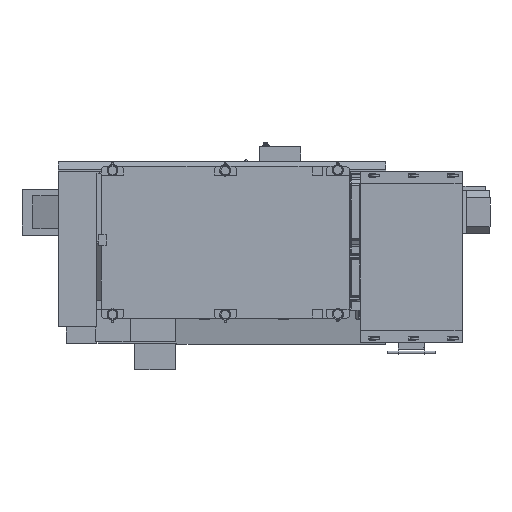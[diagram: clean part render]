
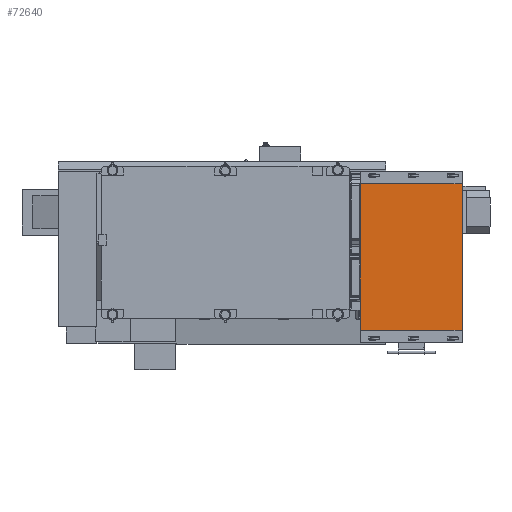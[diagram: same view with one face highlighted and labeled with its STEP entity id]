
A CAD part, front view. The second image highlights one B-rep face of the part: STEP entity #72640.
In plain terms, the highlighted planar face has unit normal (0, -1, 0).
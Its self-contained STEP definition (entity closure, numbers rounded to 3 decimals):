
#1158 = CARTESIAN_POINT ( 'NONE',  ( 375.147, -1068.207, -1372.405 ) ) ;
#6952 = CARTESIAN_POINT ( 'NONE',  ( 3551.936, -1068.207, 331.935 ) ) ;
#9903 = ORIENTED_EDGE ( 'NONE', *, *, #39994, .F. ) ;
#11594 = VECTOR ( 'NONE', #132654, 1000. ) ;
#22662 = VERTEX_POINT ( 'NONE', #92345 ) ;
#25242 = DIRECTION ( 'NONE',  ( 0., -1., 0. ) ) ;
#38062 = LINE ( 'NONE', #124836, #92608 ) ;
#39994 = EDGE_CURVE ( 'NONE', #173999, #208456, #38062, .T. ) ;
#41317 = DIRECTION ( 'NONE',  ( 0., 0., -1. ) ) ;
#44761 = VECTOR ( 'NONE', #168684, 1000. ) ;
#45962 = CARTESIAN_POINT ( 'NONE',  ( 375.147, -1068.207, -1372.405 ) ) ;
#50282 = CARTESIAN_POINT ( 'NONE',  ( 375.147, -1068.207, 331.935 ) ) ;
#55795 = CARTESIAN_POINT ( 'NONE',  ( 2370.582, -1068.207, 331.935 ) ) ;
#57795 = CARTESIAN_POINT ( 'NONE',  ( 2368.042, -1068.207, 331.935 ) ) ;
#58682 = ORIENTED_EDGE ( 'NONE', *, *, #192379, .F. ) ;
#63018 = CARTESIAN_POINT ( 'NONE',  ( 2368.042, -1068.207, -1372.405 ) ) ;
#68829 = ORIENTED_EDGE ( 'NONE', *, *, #243761, .T. ) ;
#70517 = EDGE_CURVE ( 'NONE', #125221, #22662, #174858, .T. ) ;
#71676 = LINE ( 'NONE', #50282, #279718 ) ;
#72640 = ADVANCED_FACE ( 'NONE', ( #220021 ), #90695, .T. ) ;
#73797 = CARTESIAN_POINT ( 'NONE',  ( 2368.042, -1068.207, -1372.405 ) ) ;
#79187 = CARTESIAN_POINT ( 'NONE',  ( 375.147, -1068.207, 331.935 ) ) ;
#79491 = EDGE_LOOP ( 'NONE', ( #240721, #181826, #270958, #68829, #269059, #9903, #152761, #58682 ) ) ;
#85914 = LINE ( 'NONE', #45962, #114392 ) ;
#86833 = LINE ( 'NONE', #170693, #263298 ) ;
#88444 = VERTEX_POINT ( 'NONE', #155091 ) ;
#89294 = DIRECTION ( 'NONE',  ( 0., 0., -1. ) ) ;
#89607 = CARTESIAN_POINT ( 'NONE',  ( 375.147, -1068.207, -1372.405 ) ) ;
#90695 = PLANE ( 'NONE',  #147460 ) ;
#92345 = CARTESIAN_POINT ( 'NONE',  ( 2370.582, -1068.207, -1372.405 ) ) ;
#92373 = DIRECTION ( 'NONE',  ( 1., 0., 0. ) ) ;
#92608 = VECTOR ( 'NONE', #104923, 1000. ) ;
#104923 = DIRECTION ( 'NONE',  ( 1., 0., 0. ) ) ;
#107265 = VERTEX_POINT ( 'NONE', #143757 ) ;
#114392 = VECTOR ( 'NONE', #173948, 1000. ) ;
#124836 = CARTESIAN_POINT ( 'NONE',  ( 375.147, -1068.207, 331.935 ) ) ;
#125221 = VERTEX_POINT ( 'NONE', #73797 ) ;
#132654 = DIRECTION ( 'NONE',  ( 0., 0., 1. ) ) ;
#137076 = DIRECTION ( 'NONE',  ( 1., 0., 0. ) ) ;
#143757 = CARTESIAN_POINT ( 'NONE',  ( 3554.476, -1068.207, -1372.405 ) ) ;
#144912 = VECTOR ( 'NONE', #92373, 1000. ) ;
#147460 = AXIS2_PLACEMENT_3D ( 'NONE', #1158, #25242, #89294 ) ;
#152761 = ORIENTED_EDGE ( 'NONE', *, *, #204071, .F. ) ;
#155091 = CARTESIAN_POINT ( 'NONE',  ( 3551.936, -1068.207, -1372.405 ) ) ;
#168684 = DIRECTION ( 'NONE',  ( 1., 0., 0. ) ) ;
#170693 = CARTESIAN_POINT ( 'NONE',  ( 3554.476, -1068.207, -1372.405 ) ) ;
#173948 = DIRECTION ( 'NONE',  ( 1., 0., 0. ) ) ;
#173999 = VERTEX_POINT ( 'NONE', #6952 ) ;
#174858 = LINE ( 'NONE', #89607, #144912 ) ;
#175530 = EDGE_CURVE ( 'NONE', #88444, #22662, #179754, .T. ) ;
#176124 = EDGE_CURVE ( 'NONE', #208456, #107265, #86833, .T. ) ;
#179754 = LINE ( 'NONE', #202498, #181498 ) ;
#181498 = VECTOR ( 'NONE', #240976, 1000. ) ;
#181826 = ORIENTED_EDGE ( 'NONE', *, *, #70517, .T. ) ;
#192379 = EDGE_CURVE ( 'NONE', #204078, #235200, #71676, .T. ) ;
#195206 = LINE ( 'NONE', #63018, #11594 ) ;
#202498 = CARTESIAN_POINT ( 'NONE',  ( 3551.936, -1068.207, -1372.405 ) ) ;
#204071 = EDGE_CURVE ( 'NONE', #235200, #173999, #279487, .T. ) ;
#204078 = VERTEX_POINT ( 'NONE', #57795 ) ;
#208456 = VERTEX_POINT ( 'NONE', #211055 ) ;
#211055 = CARTESIAN_POINT ( 'NONE',  ( 3554.476, -1068.207, 331.935 ) ) ;
#219165 = EDGE_CURVE ( 'NONE', #125221, #204078, #195206, .T. ) ;
#220021 = FACE_OUTER_BOUND ( 'NONE', #79491, .T. ) ;
#235200 = VERTEX_POINT ( 'NONE', #55795 ) ;
#240721 = ORIENTED_EDGE ( 'NONE', *, *, #219165, .F. ) ;
#240976 = DIRECTION ( 'NONE',  ( -1., 0., 0. ) ) ;
#243761 = EDGE_CURVE ( 'NONE', #88444, #107265, #85914, .T. ) ;
#263298 = VECTOR ( 'NONE', #41317, 1000. ) ;
#269059 = ORIENTED_EDGE ( 'NONE', *, *, #176124, .F. ) ;
#270958 = ORIENTED_EDGE ( 'NONE', *, *, #175530, .F. ) ;
#279487 = LINE ( 'NONE', #79187, #44761 ) ;
#279718 = VECTOR ( 'NONE', #137076, 1000. ) ;
